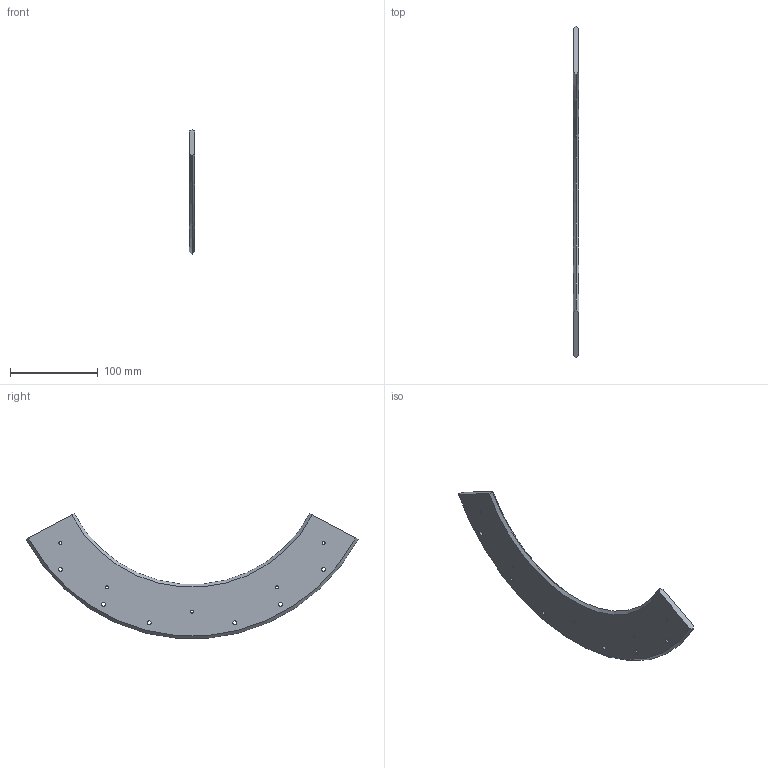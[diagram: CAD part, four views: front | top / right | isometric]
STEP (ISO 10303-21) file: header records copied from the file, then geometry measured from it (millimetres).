
FILE_DESCRIPTION(('Open CASCADE Model'),'2;1');
FILE_NAME('Open CASCADE Shape Model','2026-10-18T22:58:36',('Author'),( 'Open CASCADE'),'Open CASCADE STEP processor 7.9','Open CASCADE 7.9' ,'Unknown');
FILE_SCHEMA(('AUTOMOTIVE_DESIGN { 1 0 10303 214 1 1 1 1 }'));
Length unit declared in the file: millimetre
Products named in the file (1): Open CASCADE STEP translator 7.9 31
Bounding box: 6.35 x 377.9 x 141.9 mm (x, y, z)
Volume: 147062.6 mm3; surface area: 52532.1 mm2
Topology: 1 solids, 1 shells, 24 faces, 61 edges, 39 vertices
Faces by surface type: cylinder 16, cone 4, plane 4
Full cylindrical faces by diameter (mm): 3.3 x10, 4.5 x6
Entity records: 1627 total; most frequent: CARTESIAN_POINT 403, DIRECTION 220, ORIENTED_EDGE 122, PCURVE 122, DEFINITIONAL_REPRESENTATION 122, LINE 100, VECTOR 100, EDGE_CURVE 61
